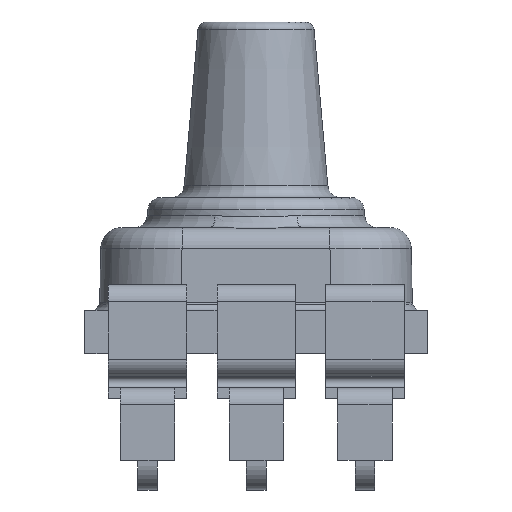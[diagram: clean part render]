
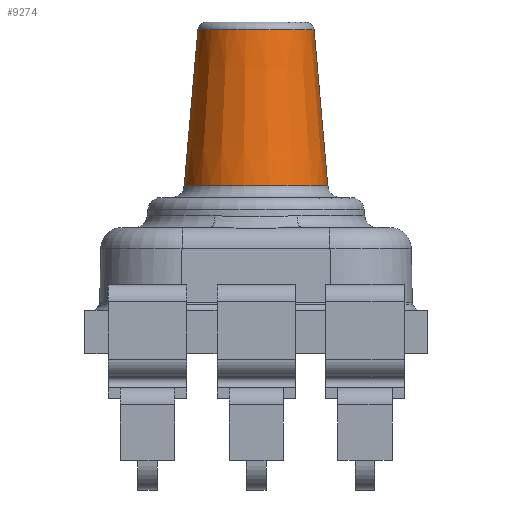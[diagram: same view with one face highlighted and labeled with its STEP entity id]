
A CAD part, left-side view. The second image highlights one B-rep face of the part: STEP entity #9274.
In plain terms, the highlighted conical face has half-angle 5 degrees and reference radius 1.517 mm.
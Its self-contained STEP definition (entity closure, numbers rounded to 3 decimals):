
#1646=CARTESIAN_POINT('',(27.6,-40.,2.904));
#1647=DIRECTION('',(0.,0.,-1.));
#1648=DIRECTION('',(-0.011,1.,0.));
#1649=AXIS2_PLACEMENT_3D('',#1646,#1647,#1648);
#1651=CARTESIAN_POINT('',(27.6,-40.,2.904));
#1652=DIRECTION('',(0.,0.,-1.));
#1653=DIRECTION('',(0.,-1.,0.));
#1654=AXIS2_PLACEMENT_3D('',#1651,#1652,#1653);
#1661=DIRECTION('',(0.,-0.087,-0.996));
#1662=VECTOR('',#1661,3.657);
#1663=CARTESIAN_POINT('',(27.6,-41.357,6.547));
#1664=LINE('',#1663,#1662);
#1665=DIRECTION('',(0.,-0.087,0.996));
#1666=VECTOR('',#1665,3.657);
#1667=CARTESIAN_POINT('',(27.6,-38.324,2.904));
#1668=LINE('',#1667,#1666);
#1689=CARTESIAN_POINT('',(27.6,-40.,6.547));
#1690=DIRECTION('',(0.,0.,1.));
#1691=DIRECTION('',(-0.012,-1.,0.));
#1692=AXIS2_PLACEMENT_3D('',#1689,#1690,#1691);
#1694=CARTESIAN_POINT('',(27.6,-40.,6.547));
#1695=DIRECTION('',(0.,0.,1.));
#1696=DIRECTION('',(0.,1.,0.));
#1697=AXIS2_PLACEMENT_3D('',#1694,#1695,#1696);
#5848=CARTESIAN_POINT('',(27.6,-41.676,2.904));
#5849=CARTESIAN_POINT('',(27.581,-38.324,2.904));
#5850=VERTEX_POINT('',#5848);
#5851=VERTEX_POINT('',#5849);
#5852=CARTESIAN_POINT('',(27.6,-38.324,2.904));
#5853=VERTEX_POINT('',#5852);
#5854=CARTESIAN_POINT('',(27.584,-41.357,6.547));
#5855=CARTESIAN_POINT('',(27.6,-41.357,6.547));
#5856=VERTEX_POINT('',#5854);
#5857=VERTEX_POINT('',#5855);
#5858=CARTESIAN_POINT('',(27.6,-38.643,6.547));
#5859=VERTEX_POINT('',#5858);
#9257=CARTESIAN_POINT('',(27.6,-40.,4.726));
#9258=DIRECTION('',(0.,0.,-1.));
#9259=DIRECTION('',(0.,-1.,0.));
#9260=AXIS2_PLACEMENT_3D('',#9257,#9258,#9259);
#9261=CONICAL_SURFACE('',#9260,1.517,5.);
#9263=ORIENTED_EDGE('',*,*,#9262,.T.);
#9265=ORIENTED_EDGE('',*,*,#9264,.T.);
#9267=ORIENTED_EDGE('',*,*,#9266,.T.);
#9269=ORIENTED_EDGE('',*,*,#9268,.T.);
#9270=ORIENTED_EDGE('',*,*,#9249,.T.);
#9271=ORIENTED_EDGE('',*,*,#9247,.T.);
#9272=EDGE_LOOP('',(#9263,#9265,#9267,#9269,#9270,#9271));
#9273=FACE_OUTER_BOUND('',#9272,.F.);
#9274=ADVANCED_FACE('',(#9273),#9261,.T.);
#1650=CIRCLE('',#1649,1.676);
#1655=CIRCLE('',#1654,1.676);
#1693=CIRCLE('',#1692,1.357);
#1698=CIRCLE('',#1697,1.357);
#9247=EDGE_CURVE('',#5851,#5853,#1650,.T.);
#9249=EDGE_CURVE('',#5850,#5851,#1655,.T.);
#9262=EDGE_CURVE('',#5853,#5859,#1668,.T.);
#9264=EDGE_CURVE('',#5859,#5856,#1698,.T.);
#9266=EDGE_CURVE('',#5856,#5857,#1693,.T.);
#9268=EDGE_CURVE('',#5857,#5850,#1664,.T.);
